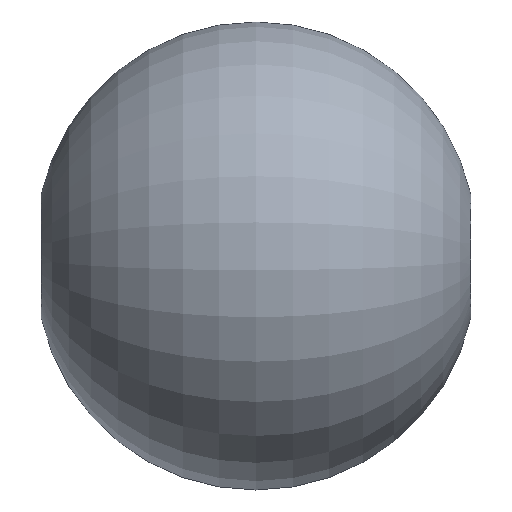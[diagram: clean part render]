
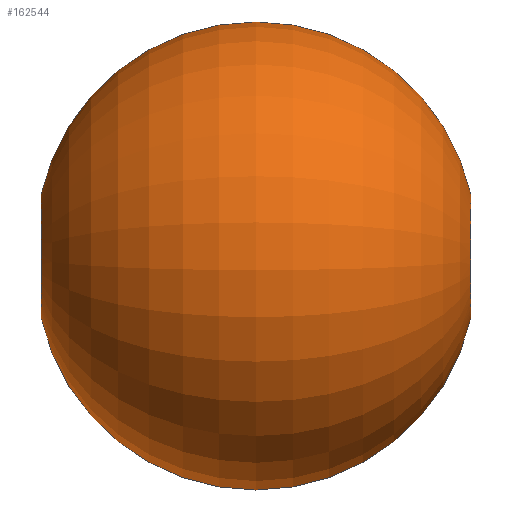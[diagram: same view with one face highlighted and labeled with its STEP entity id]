
A CAD part, left-side view. The second image highlights one B-rep face of the part: STEP entity #162544.
In plain terms, the highlighted toroidal (fillet/blend) face has major radius 70.564 mm and minor radius 1076 mm.
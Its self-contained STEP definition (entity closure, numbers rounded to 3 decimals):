
#7242 = EDGE_CURVE ( 'NONE', #77373, #121719, #23256, .T. ) ;
#8159 = AXIS2_PLACEMENT_3D ( 'NONE', #23126, #87550, #110691 ) ;
#13049 = CARTESIAN_POINT ( 'NONE',  ( 0., 1229.303, 301. ) ) ;
#13487 = DIRECTION ( 'NONE',  ( 0.087, 0., 0.996 ) ) ;
#13715 = FACE_OUTER_BOUND ( 'NONE', #60599, .T. ) ;
#15479 = CARTESIAN_POINT ( 'NONE',  ( -26.234, 1229.303, -299.855 ) ) ;
#23126 = CARTESIAN_POINT ( 'NONE',  ( 0., 178.268, 70.564 ) ) ;
#23256 = CIRCLE ( 'NONE', #131486, 1076. ) ;
#26934 = DIRECTION ( 'NONE',  ( 0., 1., 0. ) ) ;
#37130 = EDGE_CURVE ( 'NONE', #77373, #55299, #38257, .T. ) ;
#38257 = CIRCLE ( 'NONE', #149039, 301. ) ;
#55299 = VERTEX_POINT ( 'NONE', #13049 ) ;
#60599 = EDGE_LOOP ( 'NONE', ( #126421, #76387, #142782, #64857 ) ) ;
#62613 = DIRECTION ( 'NONE',  ( 0., 1., 0. ) ) ;
#63078 = DIRECTION ( 'NONE',  ( -0.996, 0., 0.087 ) ) ;
#63504 = AXIS2_PLACEMENT_3D ( 'NONE', #101631, #162003, #99199 ) ;
#64857 = ORIENTED_EDGE ( 'NONE', *, *, #7242, .T. ) ;
#68792 = CIRCLE ( 'NONE', #8159, 1076. ) ;
#76387 = ORIENTED_EDGE ( 'NONE', *, *, #142233, .T. ) ;
#77373 = VERTEX_POINT ( 'NONE', #15479 ) ;
#87550 = DIRECTION ( 'NONE',  ( -1., 0., 0. ) ) ;
#88123 = DIRECTION ( 'NONE',  ( 0., 0., 1. ) ) ;
#93046 = AXIS2_PLACEMENT_3D ( 'NONE', #163311, #26934, #88123 ) ;
#99199 = DIRECTION ( 'NONE',  ( 0., 0., 1. ) ) ;
#99796 = CARTESIAN_POINT ( 'NONE',  ( 0., 1229.303, 0. ) ) ;
#101631 = CARTESIAN_POINT ( 'NONE',  ( 0., -872.767, 0. ) ) ;
#103023 = CIRCLE ( 'NONE', #63504, 301. ) ;
#108822 = TOROIDAL_SURFACE ( 'NONE', #93046, 70.564, 1076. ) ;
#110691 = DIRECTION ( 'NONE',  ( 0., 0., 1. ) ) ;
#121719 = VERTEX_POINT ( 'NONE', #153316 ) ;
#124488 = VERTEX_POINT ( 'NONE', #157422 ) ;
#126421 = ORIENTED_EDGE ( 'NONE', *, *, #135421, .T. ) ;
#127489 = CARTESIAN_POINT ( 'NONE',  ( -6.15, 178.268, -70.295 ) ) ;
#131486 = AXIS2_PLACEMENT_3D ( 'NONE', #127489, #63078, #13487 ) ;
#135421 = EDGE_CURVE ( 'NONE', #121719, #124488, #103023, .T. ) ;
#136141 = DIRECTION ( 'NONE',  ( 0., 0., 1. ) ) ;
#142233 = EDGE_CURVE ( 'NONE', #124488, #55299, #68792, .T. ) ;
#142782 = ORIENTED_EDGE ( 'NONE', *, *, #37130, .F. ) ;
#149039 = AXIS2_PLACEMENT_3D ( 'NONE', #99796, #62613, #136141 ) ;
#153316 = CARTESIAN_POINT ( 'NONE',  ( -26.234, -872.767, -299.855 ) ) ;
#157422 = CARTESIAN_POINT ( 'NONE',  ( 0., -872.767, 301. ) ) ;
#162003 = DIRECTION ( 'NONE',  ( 0., 1., 0. ) ) ;
#162544 = ADVANCED_FACE ( 'NONE', ( #13715 ), #108822, .T. ) ;
#163311 = CARTESIAN_POINT ( 'NONE',  ( 0., 178.268, 0. ) ) ;
